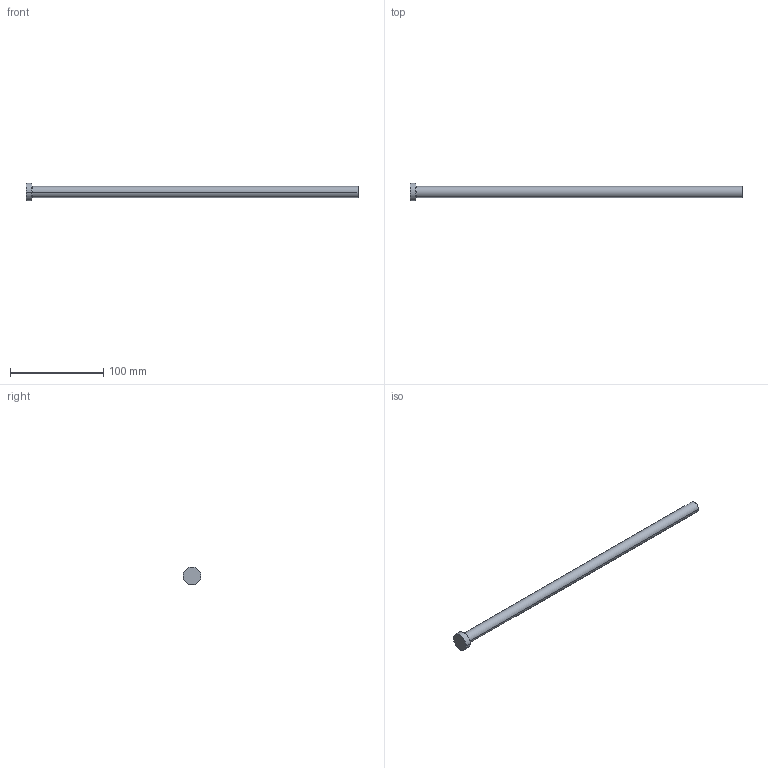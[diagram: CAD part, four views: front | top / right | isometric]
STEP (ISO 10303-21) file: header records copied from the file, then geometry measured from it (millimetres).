
FILE_DESCRIPTION (( 'STEP AP214' ), '1' );
FILE_NAME ('P31-14.STEP', '2020-03-12T10:36:14', ( '' ), ( '' ), 'SwSTEP 2.0', 'SolidWorks 2018', '' );
FILE_SCHEMA (( 'AUTOMOTIVE_DESIGN' ));
Length unit declared in the file: inch
Products named in the file (1): P31-14
Bounding box: 355.6 x 19.05 x 19.05 mm (x, y, z)
Volume: 40648.8 mm3; surface area: 13986.2 mm2
Topology: 1 solids, 1 shells, 13 faces, 24 edges, 14 vertices
Faces by surface type: cone 4, cylinder 4, plane 3, torus 2
Entity records: 366 total; most frequent: DIRECTION 68, CARTESIAN_POINT 52, ORIENTED_EDGE 48, AXIS2_PLACEMENT_3D 30, EDGE_CURVE 24, CIRCLE 16, VERTEX_POINT 14, EDGE_LOOP 14
